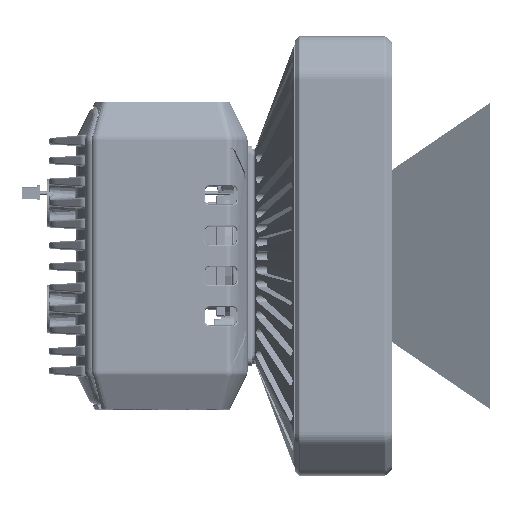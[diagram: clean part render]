
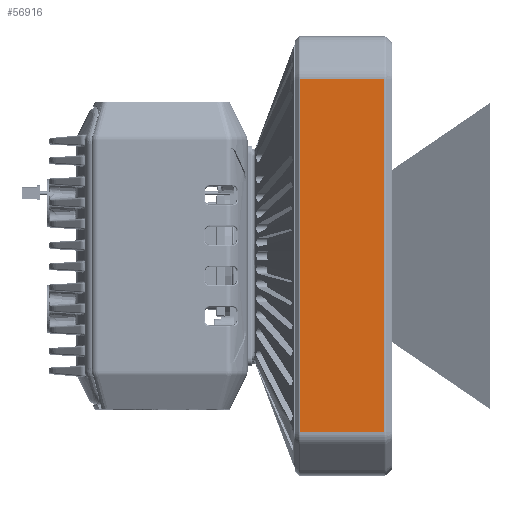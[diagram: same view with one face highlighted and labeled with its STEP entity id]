
A CAD part, top view. The second image highlights one B-rep face of the part: STEP entity #56916.
In plain terms, the highlighted planar face has unit normal (0, 0, 1).
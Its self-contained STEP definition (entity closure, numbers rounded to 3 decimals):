
#50161=DIRECTION('',(-1.,0.,0.));
#50162=VECTOR('',#50161,18.811);
#50163=CARTESIAN_POINT('',(24.293,-39.343,51.5));
#50164=LINE('',#50163,#50162);
#50184=DIRECTION('',(-1.,0.,0.));
#50185=VECTOR('',#50184,18.811);
#50186=CARTESIAN_POINT('',(24.293,39.343,51.5));
#50187=LINE('',#50186,#50185);
#50191=DIRECTION('',(0.,1.,0.));
#50192=VECTOR('',#50191,78.686);
#50193=CARTESIAN_POINT('',(24.293,-39.343,51.5));
#50194=LINE('',#50193,#50192);
#50198=DIRECTION('',(0.,-1.,0.));
#50199=VECTOR('',#50198,78.686);
#50200=CARTESIAN_POINT('',(5.482,39.343,51.5));
#50201=LINE('',#50200,#50199);
#55732=CARTESIAN_POINT('',(24.293,-39.343,51.5));
#55733=VERTEX_POINT('',#55732);
#55736=CARTESIAN_POINT('',(24.293,39.343,51.5));
#55737=VERTEX_POINT('',#55736);
#56052=CARTESIAN_POINT('',(5.482,-39.343,51.5));
#56053=VERTEX_POINT('',#56052);
#56058=CARTESIAN_POINT('',(5.482,39.343,51.5));
#56059=VERTEX_POINT('',#56058);
#56902=CARTESIAN_POINT('',(14.887,0.,51.5));
#56903=DIRECTION('',(0.,0.,1.));
#56904=DIRECTION('',(0.,-1.,0.));
#56905=AXIS2_PLACEMENT_3D('',#56902,#56903,#56904);
#56906=PLANE('',#56905);
#56908=ORIENTED_EDGE('',*,*,#56907,.F.);
#56910=ORIENTED_EDGE('',*,*,#56909,.F.);
#56911=ORIENTED_EDGE('',*,*,#56892,.T.);
#56913=ORIENTED_EDGE('',*,*,#56912,.F.);
#56914=EDGE_LOOP('',(#56908,#56910,#56911,#56913));
#56915=FACE_OUTER_BOUND('',#56914,.F.);
#56916=ADVANCED_FACE('',(#56915),#56906,.T.);
#56892=EDGE_CURVE('',#55733,#56053,#50164,.T.);
#56907=EDGE_CURVE('',#55737,#56059,#50187,.T.);
#56909=EDGE_CURVE('',#55733,#55737,#50194,.T.);
#56912=EDGE_CURVE('',#56059,#56053,#50201,.T.);
